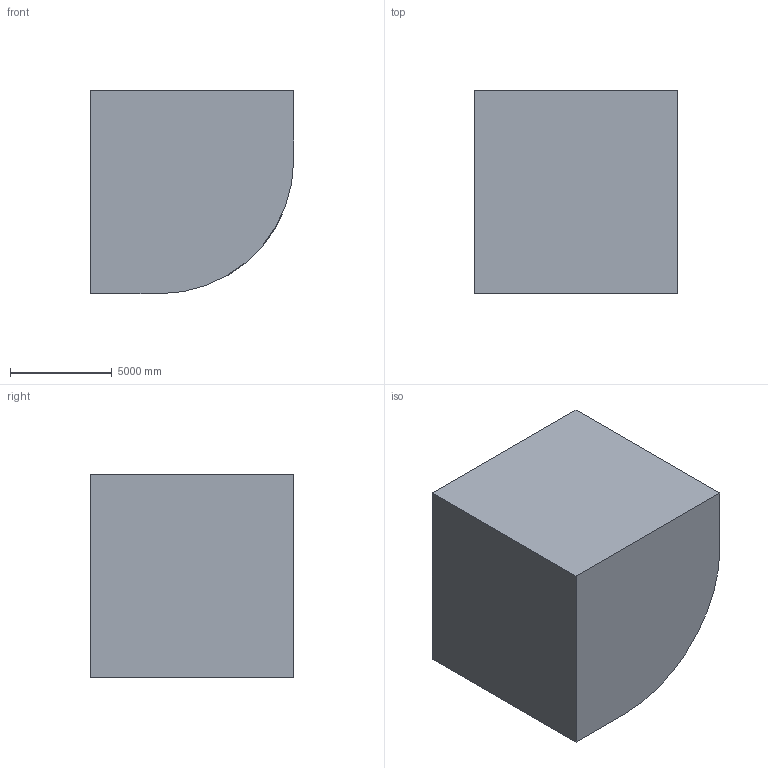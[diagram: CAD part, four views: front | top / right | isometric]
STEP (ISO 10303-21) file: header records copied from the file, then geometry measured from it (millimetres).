
FILE_DESCRIPTION (( 'STEP AP203' ), '1' );
FILE_NAME ('1089.STEP', '2022-08-18T12:42:50', ( 'user' ), ( '' ), 'SwSTEP 2.0', 'SolidWorks 2021', '' );
FILE_SCHEMA (( 'CONFIG_CONTROL_DESIGN' ));
Length unit declared in the file: centimetre
Products named in the file (1): 1089
Bounding box: 10000 x 10000 x 10000 mm (x, y, z)
Volume: 892182894568 mm3; surface area: 588007711.2 mm2
Topology: 1 solids, 1 shells, 14 faces, 33 edges, 22 vertices
Faces by surface type: plane 13, cylinder 1
Entity records: 478 total; most frequent: CARTESIAN_POINT 82, ORIENTED_EDGE 66, DIRECTION 63, EDGE_CURVE 33, VECTOR 25, LINE 25, VERTEX_POINT 22, AXIS2_PLACEMENT_3D 19
